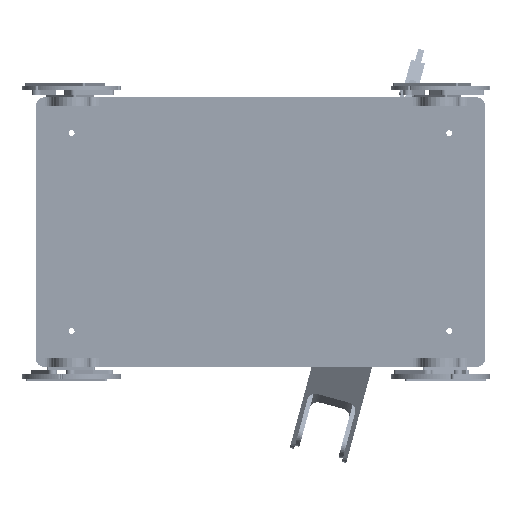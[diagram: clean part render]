
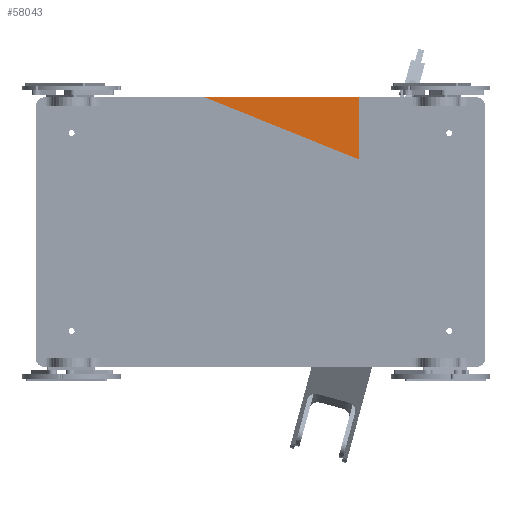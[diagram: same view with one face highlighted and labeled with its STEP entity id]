
A CAD part, front view. The second image highlights one B-rep face of the part: STEP entity #58043.
In plain terms, the highlighted planar face has unit normal (0, -1, 0).
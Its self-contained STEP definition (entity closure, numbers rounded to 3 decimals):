
#10019 = VERTEX_POINT('',#10020);
#10020 = CARTESIAN_POINT('',(109.496,0.,80.85));
#10241 = PLANE('',#10242);
#10242 = AXIS2_PLACEMENT_3D('',#10243,#10244,#10245);
#10243 = CARTESIAN_POINT('',(123.431,0.,107.709));
#10244 = DIRECTION('',(-0.,-1.,-0.));
#10245 = DIRECTION('',(0.,0.,-1.));
#10257 = VERTEX_POINT('',#10258);
#10258 = CARTESIAN_POINT('',(109.496,0.,150.));
#10283 = EDGE_CURVE('',#10019,#10257,#10284,.T.);
#10284 = SURFACE_CURVE('',#10285,(#10289,#10295),.PCURVE_S1.);
#10285 = LINE('',#10286,#10287);
#10286 = CARTESIAN_POINT('',(109.496,0.,80.85));
#10287 = VECTOR('',#10288,1.);
#10288 = DIRECTION('',(0.,0.,1.));
#10289 = PCURVE('',#10241,#10290);
#10290 = DEFINITIONAL_REPRESENTATION('',(#10291),#10294);
#10291 = B_SPLINE_CURVE_WITH_KNOTS('',1,(#10292,#10293),.UNSPECIFIED.,
  .F.,.F.,(2,2),(0.,69.15),.PIECEWISE_BEZIER_KNOTS.);
#10292 = CARTESIAN_POINT('',(26.859,-13.935));
#10293 = CARTESIAN_POINT('',(-42.291,-13.935));
#10294 = ( GEOMETRIC_REPRESENTATION_CONTEXT(2) 
PARAMETRIC_REPRESENTATION_CONTEXT() REPRESENTATION_CONTEXT('2D SPACE',''
  ) );
#10295 = PCURVE('',#10296,#10301);
#10296 = PLANE('',#10297);
#10297 = AXIS2_PLACEMENT_3D('',#10298,#10299,#10300);
#10298 = CARTESIAN_POINT('',(37.716,0.,129.357));
#10299 = DIRECTION('',(-0.,-1.,-0.));
#10300 = DIRECTION('',(0.,0.,-1.));
#10301 = DEFINITIONAL_REPRESENTATION('',(#10302),#10306);
#10302 = LINE('',#10303,#10304);
#10303 = CARTESIAN_POINT('',(48.507,71.78));
#10304 = VECTOR('',#10305,1.);
#10305 = DIRECTION('',(-1.,0.));
#10306 = ( GEOMETRIC_REPRESENTATION_CONTEXT(2) 
PARAMETRIC_REPRESENTATION_CONTEXT() REPRESENTATION_CONTEXT('2D SPACE',''
  ) );
#19458 = VERTEX_POINT('',#19459);
#19459 = CARTESIAN_POINT('',(-61.927,0.,150.));
#19498 = PLANE('',#19499);
#19499 = AXIS2_PLACEMENT_3D('',#19500,#19501,#19502);
#19500 = CARTESIAN_POINT('',(28.493,5.291,
    150.));
#19501 = DIRECTION('',(0.,0.,1.));
#19502 = DIRECTION('',(1.,0.,-0.));
#28662 = EDGE_CURVE('',#19458,#10257,#28663,.T.);
#28663 = SURFACE_CURVE('',#28664,(#28668,#28675),.PCURVE_S1.);
#28664 = LINE('',#28665,#28666);
#28665 = CARTESIAN_POINT('',(-61.927,0.,150.));
#28666 = VECTOR('',#28667,1.);
#28667 = DIRECTION('',(1.,0.,0.));
#28668 = PCURVE('',#19498,#28669);
#28669 = DEFINITIONAL_REPRESENTATION('',(#28670),#28674);
#28670 = LINE('',#28671,#28672);
#28671 = CARTESIAN_POINT('',(-90.421,-5.291));
#28672 = VECTOR('',#28673,1.);
#28673 = DIRECTION('',(1.,0.));
#28674 = ( GEOMETRIC_REPRESENTATION_CONTEXT(2) 
PARAMETRIC_REPRESENTATION_CONTEXT() REPRESENTATION_CONTEXT('2D SPACE',''
  ) );
#28675 = PCURVE('',#10296,#28676);
#28676 = DEFINITIONAL_REPRESENTATION('',(#28677),#28680);
#28677 = B_SPLINE_CURVE_WITH_KNOTS('',1,(#28678,#28679),.UNSPECIFIED.,
  .F.,.F.,(2,2),(0.,171.423),.PIECEWISE_BEZIER_KNOTS.);
#28678 = CARTESIAN_POINT('',(-20.643,-99.644));
#28679 = CARTESIAN_POINT('',(-20.643,71.78));
#28680 = ( GEOMETRIC_REPRESENTATION_CONTEXT(2) 
PARAMETRIC_REPRESENTATION_CONTEXT() REPRESENTATION_CONTEXT('2D SPACE',''
  ) );
#58043 = ADVANCED_FACE('',(#58044),#10296,.T.);
#58044 = FACE_BOUND('',#58045,.T.);
#58045 = EDGE_LOOP('',(#58046,#58047,#58072));
#58046 = ORIENTED_EDGE('',*,*,#28662,.F.);
#58047 = ORIENTED_EDGE('',*,*,#58048,.T.);
#58048 = EDGE_CURVE('',#19458,#10019,#58049,.T.);
#58049 = SURFACE_CURVE('',#58050,(#58054,#58061),.PCURVE_S1.);
#58050 = LINE('',#58051,#58052);
#58051 = CARTESIAN_POINT('',(-61.927,0.,150.));
#58052 = VECTOR('',#58053,1.);
#58053 = DIRECTION('',(0.927,0.,-0.374));
#58054 = PCURVE('',#10296,#58055);
#58055 = DEFINITIONAL_REPRESENTATION('',(#58056),#58060);
#58056 = LINE('',#58057,#58058);
#58057 = CARTESIAN_POINT('',(-20.643,-99.644));
#58058 = VECTOR('',#58059,1.);
#58059 = DIRECTION('',(0.374,0.927));
#58060 = ( GEOMETRIC_REPRESENTATION_CONTEXT(2) 
PARAMETRIC_REPRESENTATION_CONTEXT() REPRESENTATION_CONTEXT('2D SPACE',''
  ) );
#58061 = PCURVE('',#58062,#58067);
#58062 = PLANE('',#58063);
#58063 = AXIS2_PLACEMENT_3D('',#58064,#58065,#58066);
#58064 = CARTESIAN_POINT('',(9.852,0.,101.493));
#58065 = DIRECTION('',(-0.,-1.,-0.));
#58066 = DIRECTION('',(0.,0.,-1.));
#58067 = DEFINITIONAL_REPRESENTATION('',(#58068),#58071);
#58068 = B_SPLINE_CURVE_WITH_KNOTS('',1,(#58069,#58070),.UNSPECIFIED.,
  .F.,.F.,(2,2),(0.,184.845),.PIECEWISE_BEZIER_KNOTS.);
#58069 = CARTESIAN_POINT('',(-48.507,-71.78));
#58070 = CARTESIAN_POINT('',(20.643,99.644));
#58071 = ( GEOMETRIC_REPRESENTATION_CONTEXT(2) 
PARAMETRIC_REPRESENTATION_CONTEXT() REPRESENTATION_CONTEXT('2D SPACE',''
  ) );
#58072 = ORIENTED_EDGE('',*,*,#10283,.T.);
